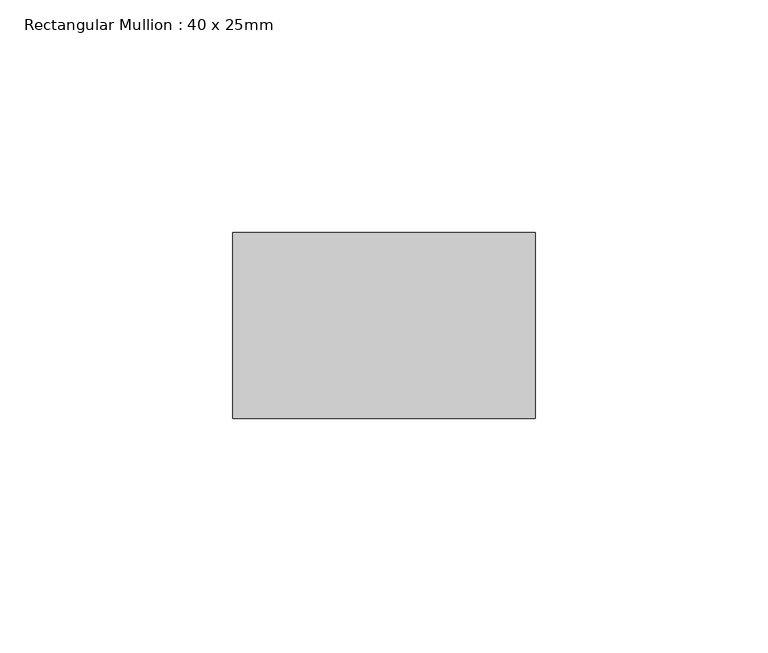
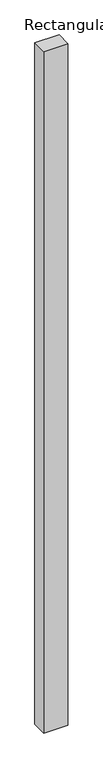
"""IFC4 building model written with IfcOpenShell, lengths in millimetres: member geometry, Rectangular Mullion : 40 x 25mm."""

from ifc_helpers import new_model, si_unit, frame, origin, place, context, project, spatial, polyline, outline, extrude, source, transform, mapped, element, save


def rectangular_mullion_40_x_25mm_392b4cec(model_context):
    return source(origin(), model_context, "Body", "SweptSolid", [
        extrude(outline(polyline([(0.0, -20.0), (0.0, -60.0), (-65.0, -60.0), (-65.0, -20.0), (0.0, -20.0)])), frame((0.0, 0.0, -1921.67639), z_axis=(0.0, 0.0, 1.0), x_axis=(1.0, 0.0, 0.0)), (0.0, 0.0, 1.0), 1921.67639),
    ])


if __name__ == "__main__":
    model = new_model("IFC4")
    model_context = context("Model", 3, world=origin())
    ifc_project = project(units=[si_unit("LENGTHUNIT", "METRE", prefix="MILLI")], contexts=[model_context])
    site = spatial("IfcSite", under=ifc_project)
    building = spatial("IfcBuilding", under=site)
    placement = place(None, origin())
    rectangular_mullion_40_x_25mm_shape = rectangular_mullion_40_x_25mm_392b4cec(model_context)
    element("IfcMember", 1, ObjectType="Rectangular Mullion : 40 x 25mm", at=placement, inside=building, context=model_context, shape_type="MappedRepresentation", body=[
        mapped(rectangular_mullion_40_x_25mm_shape, transform((0.0, 0.0, 0.0), x_axis=(1.0, 0.0, 0.0), y_axis=(0.0, 1.0, 0.0), z_axis=(0.0, 0.0, 1.0))),
    ])
    save(model, "model.ifc")
